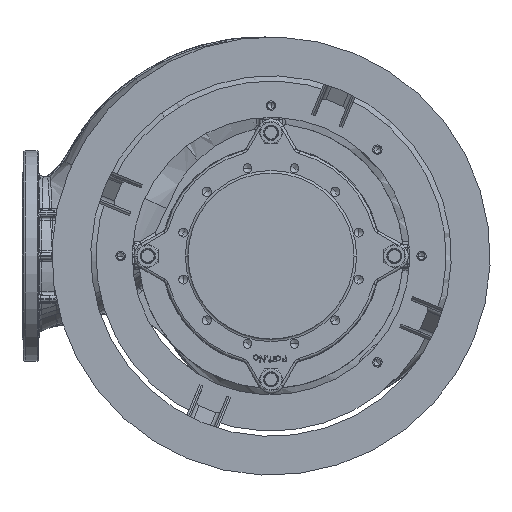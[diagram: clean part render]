
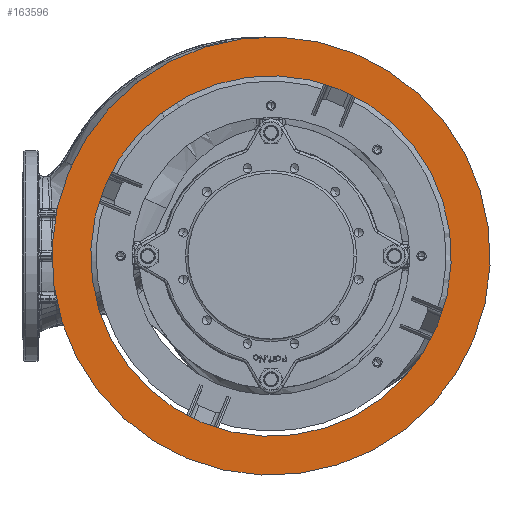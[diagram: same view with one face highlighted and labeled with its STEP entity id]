
A CAD part, front view. The second image highlights one B-rep face of the part: STEP entity #163596.
In plain terms, the highlighted planar face has unit normal (0, -1, 0).
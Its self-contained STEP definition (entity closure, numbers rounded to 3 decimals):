
#4473 = CARTESIAN_POINT ( 'NONE',  ( -132.982, -839.5, -321.048 ) ) ;
#4866 = CARTESIAN_POINT ( 'NONE',  ( 0., -839.5, 0. ) ) ;
#5849 = VERTEX_POINT ( 'NONE', #65626 ) ;
#13569 = CARTESIAN_POINT ( 'NONE',  ( 161.684, -839.5, 390.339 ) ) ;
#17245 = ORIENTED_EDGE ( 'NONE', *, *, #103568, .F. ) ;
#18347 = AXIS2_PLACEMENT_3D ( 'NONE', #138811, #55038, #152776 ) ;
#18966 = DIRECTION ( 'NONE',  ( 0.383, 0., 0.924 ) ) ;
#21688 = VERTEX_POINT ( 'NONE', #4473 ) ;
#27974 = EDGE_CURVE ( 'NONE', #5849, #21688, #133220, .T. ) ;
#32212 = FACE_BOUND ( 'NONE', #130801, .T. ) ;
#32285 = CARTESIAN_POINT ( 'NONE',  ( 0., -839.5, 0. ) ) ;
#32742 = CARTESIAN_POINT ( 'NONE',  ( -161.684, -839.5, -390.339 ) ) ;
#33854 = AXIS2_PLACEMENT_3D ( 'NONE', #4866, #102520, #18966 ) ;
#40055 = DIRECTION ( 'NONE',  ( 0., -1., 0. ) ) ;
#45535 = CIRCLE ( 'NONE', #67274, 422.5 ) ;
#45893 = DIRECTION ( 'NONE',  ( 0., -1., 0. ) ) ;
#46286 = DIRECTION ( 'NONE',  ( 0.383, 0., 0.924 ) ) ;
#55038 = DIRECTION ( 'NONE',  ( 0., -1., 0. ) ) ;
#57427 = CIRCLE ( 'NONE', #33854, 347.5 ) ;
#61230 = ORIENTED_EDGE ( 'NONE', *, *, #27974, .F. ) ;
#65626 = CARTESIAN_POINT ( 'NONE',  ( 132.982, -839.5, 321.048 ) ) ;
#67274 = AXIS2_PLACEMENT_3D ( 'NONE', #123755, #40055, #137792 ) ;
#68507 = PLANE ( 'NONE',  #18347 ) ;
#79785 = AXIS2_PLACEMENT_3D ( 'NONE', #32285, #130021, #46286 ) ;
#81420 = EDGE_CURVE ( 'NONE', #172116, #157071, #178795, .T. ) ;
#93479 = EDGE_CURVE ( 'NONE', #157071, #172116, #45535, .T. ) ;
#102520 = DIRECTION ( 'NONE',  ( 0., -1., 0. ) ) ;
#103568 = EDGE_CURVE ( 'NONE', #21688, #5849, #57427, .T. ) ;
#106353 = AXIS2_PLACEMENT_3D ( 'NONE', #129618, #45893, #143563 ) ;
#106544 = FACE_OUTER_BOUND ( 'NONE', #112705, .T. ) ;
#112705 = EDGE_LOOP ( 'NONE', ( #169321, #137101 ) ) ;
#123755 = CARTESIAN_POINT ( 'NONE',  ( 0., -839.5, 0. ) ) ;
#129618 = CARTESIAN_POINT ( 'NONE',  ( 0., -839.5, 0. ) ) ;
#130021 = DIRECTION ( 'NONE',  ( 0., -1., 0. ) ) ;
#130801 = EDGE_LOOP ( 'NONE', ( #61230, #17245 ) ) ;
#133220 = CIRCLE ( 'NONE', #79785, 347.5 ) ;
#137101 = ORIENTED_EDGE ( 'NONE', *, *, #93479, .T. ) ;
#137792 = DIRECTION ( 'NONE',  ( 0.383, 0., 0.924 ) ) ;
#138811 = CARTESIAN_POINT ( 'NONE',  ( 161.684, -839.5, 390.339 ) ) ;
#143563 = DIRECTION ( 'NONE',  ( 0.383, 0., 0.924 ) ) ;
#152776 = DIRECTION ( 'NONE',  ( 0.383, 0., 0.924 ) ) ;
#157071 = VERTEX_POINT ( 'NONE', #32742 ) ;
#163596 = ADVANCED_FACE ( 'NONE', ( #106544, #32212 ), #68507, .T. ) ;
#169321 = ORIENTED_EDGE ( 'NONE', *, *, #81420, .T. ) ;
#172116 = VERTEX_POINT ( 'NONE', #13569 ) ;
#178795 = CIRCLE ( 'NONE', #106353, 422.5 ) ;
